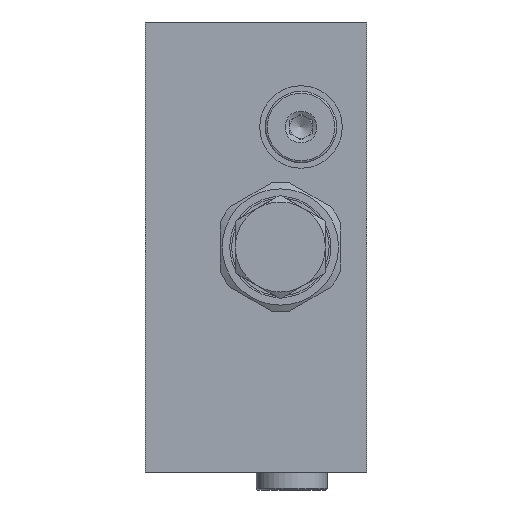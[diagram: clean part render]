
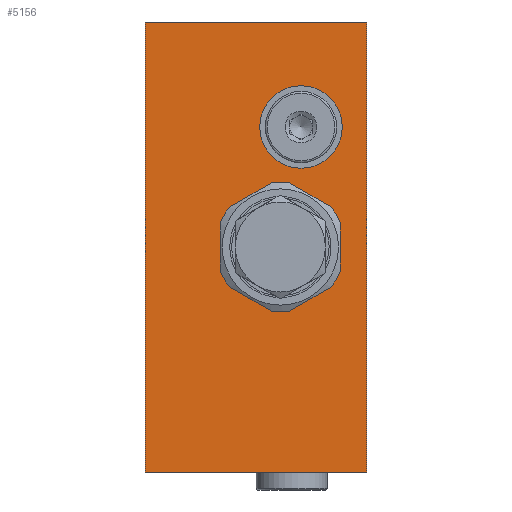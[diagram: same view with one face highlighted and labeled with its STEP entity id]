
A CAD part, left-side view. The second image highlights one B-rep face of the part: STEP entity #5156.
In plain terms, the highlighted planar face has unit normal (-1, 0, 0).
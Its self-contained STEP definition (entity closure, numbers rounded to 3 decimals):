
#402=FACE_BOUND('',#935,.T.);
#403=FACE_BOUND('',#936,.T.);
#454=PLANE('',#5582);
#611=FACE_OUTER_BOUND('',#934,.T.);
#934=EDGE_LOOP('',(#3480,#3481,#3482,#3483));
#935=EDGE_LOOP('',(#3484));
#936=EDGE_LOOP('',(#3485));
#1309=CIRCLE('',#5583,16.);
#1310=CIRCLE('',#5584,11.);
#1539=LINE('',#8027,#1776);
#1557=LINE('',#8356,#1794);
#1558=LINE('',#8359,#1795);
#1559=LINE('',#8360,#1796);
#1776=VECTOR('',#6203,10.);
#1794=VECTOR('',#6313,10.);
#1795=VECTOR('',#6316,10.);
#1796=VECTOR('',#6317,10.);
#2056=VERTEX_POINT('',#8020);
#2059=VERTEX_POINT('',#8025);
#2104=VERTEX_POINT('',#8354);
#2105=VERTEX_POINT('',#8358);
#2106=VERTEX_POINT('',#8361);
#2107=VERTEX_POINT('',#8363);
#2583=EDGE_CURVE('',#2059,#2056,#1539,.T.);
#2644=EDGE_CURVE('',#2059,#2104,#1557,.T.);
#2645=EDGE_CURVE('',#2105,#2104,#1558,.T.);
#2646=EDGE_CURVE('',#2056,#2105,#1559,.T.);
#2647=EDGE_CURVE('',#2106,#2106,#1309,.T.);
#2648=EDGE_CURVE('',#2107,#2107,#1310,.T.);
#3480=ORIENTED_EDGE('',*,*,#2583,.F.);
#3481=ORIENTED_EDGE('',*,*,#2644,.T.);
#3482=ORIENTED_EDGE('',*,*,#2645,.F.);
#3483=ORIENTED_EDGE('',*,*,#2646,.F.);
#3484=ORIENTED_EDGE('',*,*,#2647,.T.);
#3485=ORIENTED_EDGE('',*,*,#2648,.T.);
#5156=ADVANCED_FACE('',(#611,#402,#403),#454,.T.);
#5582=AXIS2_PLACEMENT_3D('',#8357,#6314,#6315);
#5583=AXIS2_PLACEMENT_3D('',#8362,#6318,#6319);
#5584=AXIS2_PLACEMENT_3D('',#8364,#6320,#6321);
#6203=DIRECTION('',(0.,0.,-1.));
#6313=DIRECTION('',(0.,1.,0.));
#6314=DIRECTION('center_axis',(-1.,0.,0.));
#6315=DIRECTION('ref_axis',(0.,0.,1.));
#6316=DIRECTION('',(0.,0.,1.));
#6317=DIRECTION('',(0.,1.,0.));
#6318=DIRECTION('center_axis',(1.,0.,0.));
#6319=DIRECTION('ref_axis',(0.,0.,1.));
#6320=DIRECTION('center_axis',(1.,0.,0.));
#6321=DIRECTION('ref_axis',(0.,0.,1.));
#8020=CARTESIAN_POINT('',(-60.,0.,-60.));
#8025=CARTESIAN_POINT('',(-60.,0.,60.));
#8027=CARTESIAN_POINT('',(-60.,0.,60.));
#8354=CARTESIAN_POINT('',(-60.,59.,60.));
#8356=CARTESIAN_POINT('',(-60.,0.,60.));
#8357=CARTESIAN_POINT('Origin',(-60.,0.,-60.));
#8358=CARTESIAN_POINT('',(-60.,59.,-60.));
#8359=CARTESIAN_POINT('',(-60.,59.,60.));
#8360=CARTESIAN_POINT('',(-60.,0.,-60.));
#8361=CARTESIAN_POINT('',(-60.,23.,-16.));
#8362=CARTESIAN_POINT('Origin',(-60.,23.,0.));
#8363=CARTESIAN_POINT('',(-60.,17.5,21.));
#8364=CARTESIAN_POINT('Origin',(-60.,17.5,32.));
